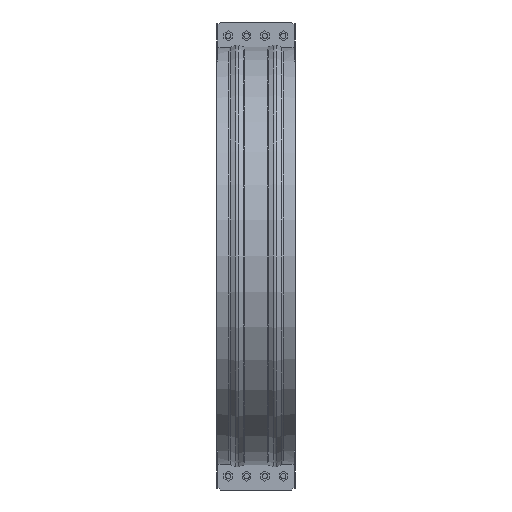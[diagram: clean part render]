
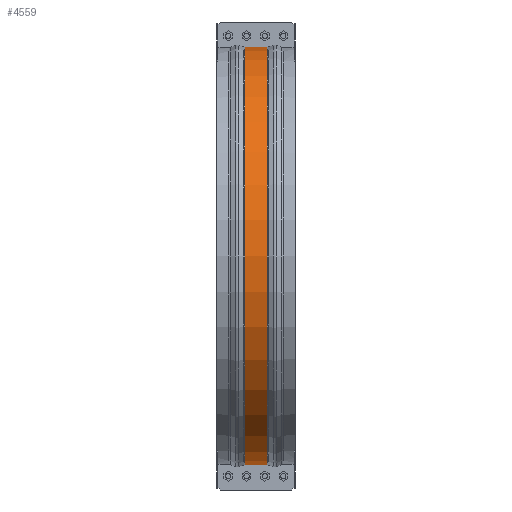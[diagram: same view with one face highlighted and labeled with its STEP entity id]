
A CAD part, front view. The second image highlights one B-rep face of the part: STEP entity #4559.
In plain terms, the highlighted cylindrical face has radius 1009.95 mm (diameter 2019.9 mm), a partial arc.
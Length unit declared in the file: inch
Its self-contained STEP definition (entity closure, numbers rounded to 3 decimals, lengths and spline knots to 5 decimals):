
#414=FACE_OUTER_BOUND('',#671,.T.);
#671=EDGE_LOOP('',(#3465,#3466,#3467,#3468));
#1036=LINE('',#7017,#1485);
#1044=LINE('',#7149,#1493);
#1485=VECTOR('',#5630,0.3937);
#1493=VECTOR('',#5690,0.3937);
#1771=CIRCLE('',#4875,39.76189);
#1773=CIRCLE('',#4879,39.76189);
#2060=VERTEX_POINT('',#7009);
#2061=VERTEX_POINT('',#7016);
#2076=VERTEX_POINT('',#7134);
#2078=VERTEX_POINT('',#7147);
#2565=EDGE_CURVE('',#2061,#2060,#1036,.T.);
#2590=EDGE_CURVE('',#2076,#2061,#1771,.T.);
#2594=EDGE_CURVE('',#2078,#2060,#1773,.T.);
#2595=EDGE_CURVE('',#2078,#2076,#1044,.T.);
#3465=ORIENTED_EDGE('',*,*,#2565,.T.);
#3466=ORIENTED_EDGE('',*,*,#2594,.F.);
#3467=ORIENTED_EDGE('',*,*,#2595,.T.);
#3468=ORIENTED_EDGE('',*,*,#2590,.T.);
#4182=CYLINDRICAL_SURFACE('',#4878,39.76189);
#4559=ADVANCED_FACE('',(#414),#4182,.T.);
#4875=AXIS2_PLACEMENT_3D('',#7135,#5679,#5680);
#4878=AXIS2_PLACEMENT_3D('',#7146,#5686,#5687);
#4879=AXIS2_PLACEMENT_3D('',#7148,#5688,#5689);
#5630=DIRECTION('',(1.,0.,0.));
#5679=DIRECTION('center_axis',(1.,0.,0.));
#5680=DIRECTION('ref_axis',(0.,0.,-1.));
#5686=DIRECTION('center_axis',(1.,0.,0.));
#5687=DIRECTION('ref_axis',(0.,-1.,0.));
#5688=DIRECTION('center_axis',(1.,0.,0.));
#5689=DIRECTION('ref_axis',(0.,0.,-1.));
#5690=DIRECTION('',(-1.,0.,0.));
#7009=CARTESIAN_POINT('',(2.15101,-0.375,-39.76012));
#7016=CARTESIAN_POINT('',(-2.15101,-0.375,-39.76012));
#7017=CARTESIAN_POINT('',(0.,-0.375,-39.76012));
#7134=CARTESIAN_POINT('',(-2.15101,-0.375,39.76012));
#7135=CARTESIAN_POINT('Origin',(-2.15101,0.,0.));
#7146=CARTESIAN_POINT('Origin',(0.,0.,0.));
#7147=CARTESIAN_POINT('',(2.15101,-0.375,39.76012));
#7148=CARTESIAN_POINT('Origin',(2.15101,0.,0.));
#7149=CARTESIAN_POINT('',(0.,-0.375,39.76012));
